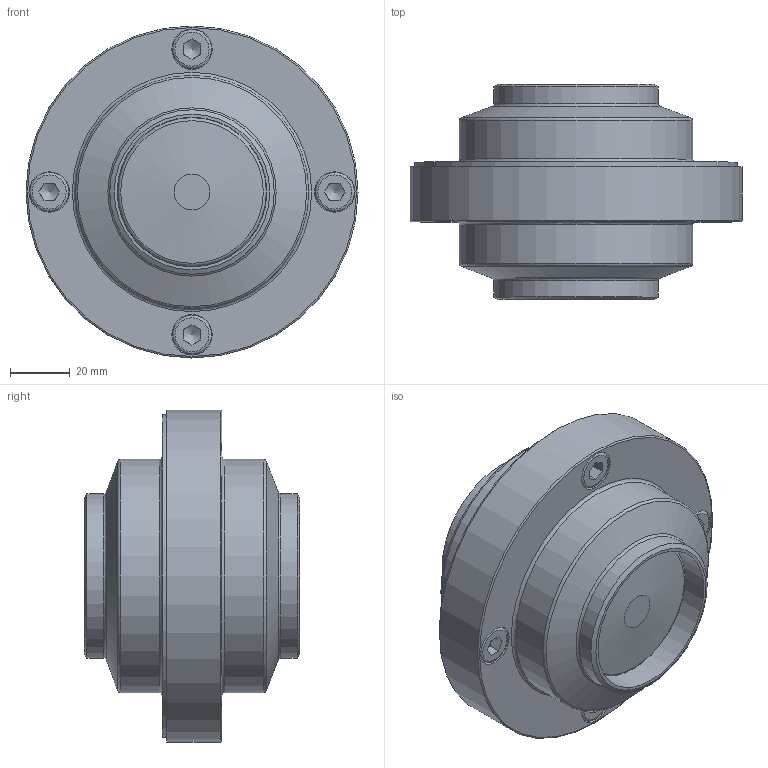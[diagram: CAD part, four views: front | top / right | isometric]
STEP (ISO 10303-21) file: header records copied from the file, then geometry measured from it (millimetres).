
FILE_DESCRIPTION((''),'2;1');
FILE_NAME('K:\2013 konstrukce\5xxxx\50800-ZPĚTNÝ VENTIL S-S\5080D-050-Zpětný ventil S-S DN050, typ D přírubový.stp','2020-12-14T08:49:58',('konstrukce3'),(''),'Autodesk Inventor 2010','Autodesk Inventor 2010','');
FILE_SCHEMA(('AUTOMOTIVE_DESIGN { 1 0 10303 214 1 1 1 1 }'));
Length unit declared in the file: millimetre
Products named in the file (1): Součást1
Bounding box: 111 x 72 x 111 mm (x, y, z)
Volume: 210003.3 mm3; surface area: 67265.5 mm2
Topology: 9 solids, 9 shells, 230 faces, 501 edges, 301 vertices
Faces by surface type: plane 66, bspline 51, cylinder 48, torus 42, cone 23
Full cylindrical faces by diameter (mm): 8 x4, 10 x2, 13 x4, 13.5 x2, 16 x1, 49.5 x1, 50 x2, 55 x2, 59 x1, 74 x1, 78 x4, 85 x1, 108 x1, 111 x1
Entity records: 10286 total; most frequent: CARTESIAN_POINT 5577, DIRECTION 938, ORIENTED_EDGE 770, AXIS2_PLACEMENT_3D 425, EDGE_CURVE 385, EDGE_LOOP 356, VERTEX_POINT 278, CIRCLE 245
